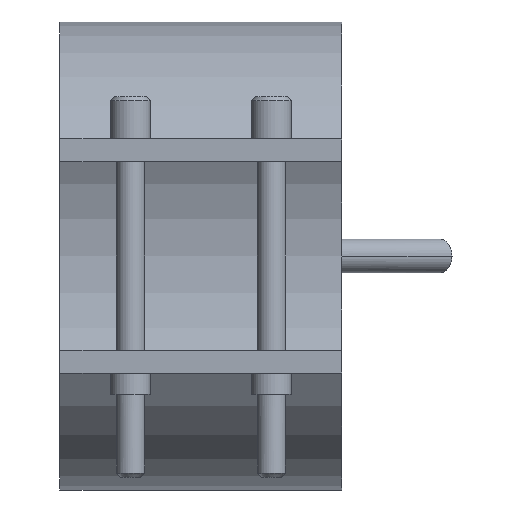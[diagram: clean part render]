
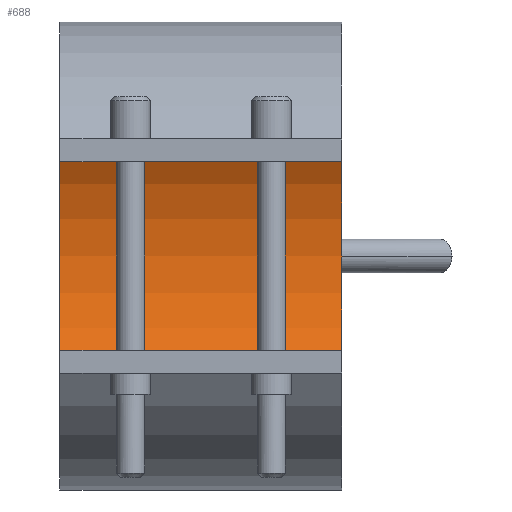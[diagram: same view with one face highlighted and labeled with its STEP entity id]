
A CAD part, front view. The second image highlights one B-rep face of the part: STEP entity #688.
In plain terms, the highlighted cylindrical face has radius 37.5 mm (diameter 75 mm), a partial arc.
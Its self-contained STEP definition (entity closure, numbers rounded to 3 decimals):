
#358=CARTESIAN_POINT('Vertex',(25.,0.,37.5)) ;
#363=CARTESIAN_POINT('Axis2P3D Location',(25.,0.,0.)) ;
#367=CARTESIAN_POINT('Vertex',(25.,0.,-37.5)) ;
#474=CARTESIAN_POINT('Vertex',(-25.,0.,-37.5)) ;
#477=CARTESIAN_POINT('Axis2P3D Location',(-25.,0.,0.)) ;
#481=CARTESIAN_POINT('Vertex',(-25.,0.,37.5)) ;
#660=CARTESIAN_POINT('Line Origine',(25.,0.,37.5)) ;
#672=CARTESIAN_POINT('Axis2P3D Location',(25.,0.,0.)) ;
#677=CARTESIAN_POINT('Line Origine',(25.,0.,-37.5)) ;
#364=DIRECTION('Axis2P3D Direction',(1.,0.,0.)) ;
#478=DIRECTION('Axis2P3D Direction',(1.,0.,0.)) ;
#661=DIRECTION('Vector Direction',(1.,0.,0.)) ;
#673=DIRECTION('Axis2P3D Direction',(1.,0.,-0.)) ;
#674=DIRECTION('Axis2P3D XDirection',(0.,0.,-1.)) ;
#678=DIRECTION('Vector Direction',(1.,0.,0.)) ;
#365=AXIS2_PLACEMENT_3D('Circle Axis2P3D',#363,#364,$) ;
#479=AXIS2_PLACEMENT_3D('Circle Axis2P3D',#477,#478,$) ;
#675=AXIS2_PLACEMENT_3D('Cylinder Axis2P3D',#672,#673,#674) ;
#683=ORIENTED_EDGE('',*,*,#369,.T.) ;
#684=ORIENTED_EDGE('',*,*,#664,.T.) ;
#685=ORIENTED_EDGE('',*,*,#483,.F.) ;
#686=ORIENTED_EDGE('',*,*,#681,.T.) ;
#662=VECTOR('Line Direction',#661,1.) ;
#679=VECTOR('Line Direction',#678,1.) ;
#688=ADVANCED_FACE('29075050',(#687),#676,.F.) ;
#366=CIRCLE('generated circle',#365,37.5) ;
#480=CIRCLE('generated circle',#479,37.5) ;
#676=CYLINDRICAL_SURFACE('generated cylinder',#675,37.5) ;
#369=EDGE_CURVE('',#368,#359,#366,.T.) ;
#483=EDGE_CURVE('',#475,#482,#480,.T.) ;
#664=EDGE_CURVE('',#359,#482,#663,.F.) ;
#681=EDGE_CURVE('',#475,#368,#680,.T.) ;
#682=EDGE_LOOP('',(#683,#684,#685,#686)) ;
#687=FACE_OUTER_BOUND('',#682,.T.) ;
#663=LINE('Line',#660,#662) ;
#680=LINE('Line',#677,#679) ;
#359=VERTEX_POINT('',#358) ;
#368=VERTEX_POINT('',#367) ;
#475=VERTEX_POINT('',#474) ;
#482=VERTEX_POINT('',#481) ;
